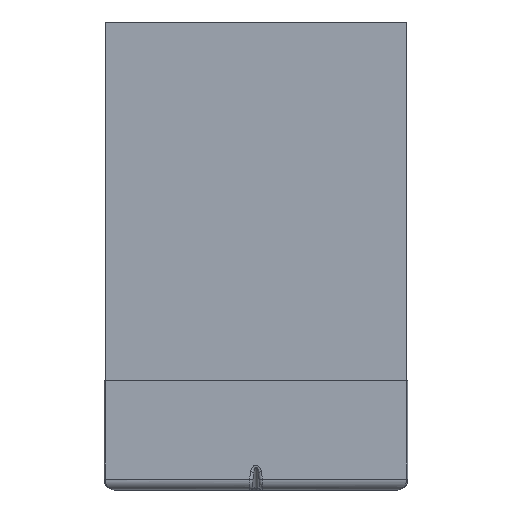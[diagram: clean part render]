
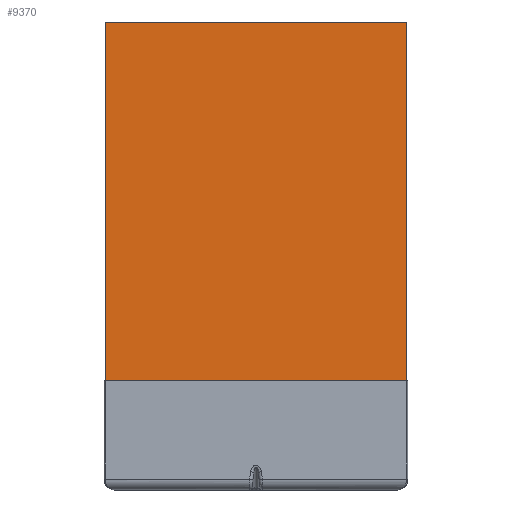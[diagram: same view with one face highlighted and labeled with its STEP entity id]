
A CAD part, front view. The second image highlights one B-rep face of the part: STEP entity #9370.
In plain terms, the highlighted planar face has unit normal (0, -1, 0).
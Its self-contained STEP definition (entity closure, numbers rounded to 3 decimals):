
#9311=CARTESIAN_POINT('Vertex',(277.,149.,428.)) ;
#9325=CARTESIAN_POINT('Vertex',(1.,149.,428.)) ;
#9328=CARTESIAN_POINT('Line Origine',(139.,149.,428.)) ;
#9340=CARTESIAN_POINT('Axis2P3D Location',(0.,149.,0.)) ;
#9345=CARTESIAN_POINT('Line Origine',(1.,149.,264.)) ;
#9349=CARTESIAN_POINT('Vertex',(1.,149.,100.)) ;
#9352=CARTESIAN_POINT('Line Origine',(139.,149.,100.)) ;
#9356=CARTESIAN_POINT('Vertex',(277.,149.,100.)) ;
#9359=CARTESIAN_POINT('Line Origine',(277.,149.,264.)) ;
#9329=DIRECTION('Vector Direction',(1.,0.,0.)) ;
#9341=DIRECTION('Axis2P3D Direction',(0.,-1.,0.)) ;
#9342=DIRECTION('Axis2P3D XDirection',(1.,0.,-0.)) ;
#9346=DIRECTION('Vector Direction',(0.,0.,-1.)) ;
#9353=DIRECTION('Vector Direction',(-1.,0.,0.)) ;
#9360=DIRECTION('Vector Direction',(0.,0.,1.)) ;
#9343=AXIS2_PLACEMENT_3D('Plane Axis2P3D',#9340,#9341,#9342) ;
#9365=ORIENTED_EDGE('',*,*,#9351,.T.) ;
#9366=ORIENTED_EDGE('',*,*,#9358,.T.) ;
#9367=ORIENTED_EDGE('',*,*,#9363,.T.) ;
#9368=ORIENTED_EDGE('',*,*,#9332,.T.) ;
#9330=VECTOR('Line Direction',#9329,1.) ;
#9347=VECTOR('Line Direction',#9346,1.) ;
#9354=VECTOR('Line Direction',#9353,1.) ;
#9361=VECTOR('Line Direction',#9360,1.) ;
#9370=ADVANCED_FACE('PartBody',(#9369),#9344,.T.) ;
#9332=EDGE_CURVE('',#9312,#9326,#9331,.F.) ;
#9351=EDGE_CURVE('',#9326,#9350,#9348,.T.) ;
#9358=EDGE_CURVE('',#9350,#9357,#9355,.F.) ;
#9363=EDGE_CURVE('',#9357,#9312,#9362,.T.) ;
#9364=EDGE_LOOP('',(#9365,#9366,#9367,#9368)) ;
#9369=FACE_OUTER_BOUND('',#9364,.T.) ;
#9331=LINE('Line',#9328,#9330) ;
#9348=LINE('Line',#9345,#9347) ;
#9355=LINE('Line',#9352,#9354) ;
#9362=LINE('Line',#9359,#9361) ;
#9344=PLANE('',#9343) ;
#9312=VERTEX_POINT('',#9311) ;
#9326=VERTEX_POINT('',#9325) ;
#9350=VERTEX_POINT('',#9349) ;
#9357=VERTEX_POINT('',#9356) ;
